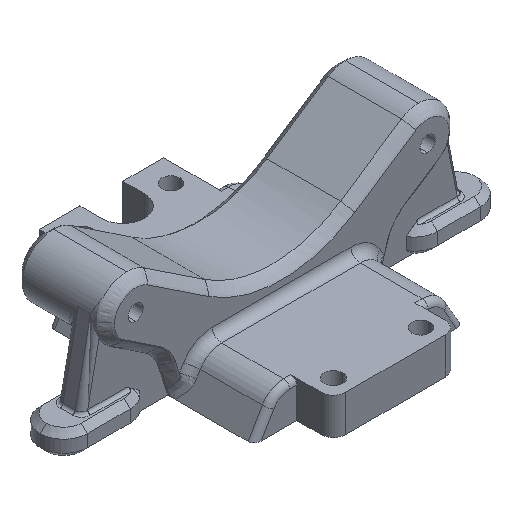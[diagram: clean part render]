
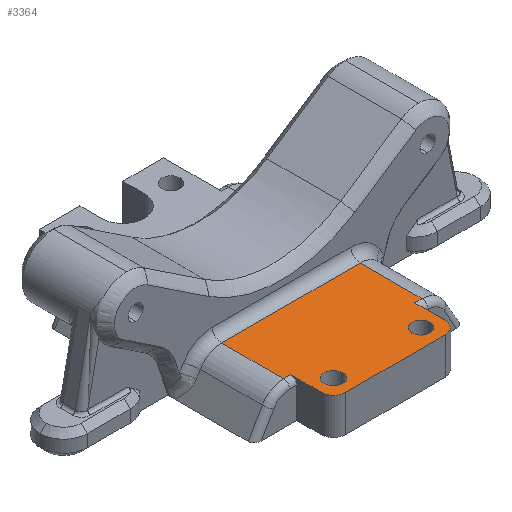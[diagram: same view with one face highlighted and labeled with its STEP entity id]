
A CAD part, isometric view. The second image highlights one B-rep face of the part: STEP entity #3364.
In plain terms, the highlighted planar face has unit normal (0, 0, 1).
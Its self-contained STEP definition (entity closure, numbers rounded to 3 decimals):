
#79 = CARTESIAN_POINT ( 'NONE',  ( -7.15, -19.8, 6. ) ) ;
#131 = AXIS2_PLACEMENT_3D ( 'NONE', #5465, #442, #4404 ) ;
#256 = ORIENTED_EDGE ( 'NONE', *, *, #1631, .T. ) ;
#257 = ORIENTED_EDGE ( 'NONE', *, *, #3929, .T. ) ;
#310 = CARTESIAN_POINT ( 'NONE',  ( -11.32, -5.7, 6. ) ) ;
#350 = DIRECTION ( 'NONE',  ( 0., -1., 0. ) ) ;
#363 = CARTESIAN_POINT ( 'NONE',  ( 10.15, -20.8, 6. ) ) ;
#381 = VERTEX_POINT ( 'NONE', #4970 ) ;
#387 = LINE ( 'NONE', #2830, #1526 ) ;
#442 = DIRECTION ( 'NONE',  ( 0., 0., 1. ) ) ;
#520 = CARTESIAN_POINT ( 'NONE',  ( 11.32, -4.2, 6. ) ) ;
#540 = DIRECTION ( 'NONE',  ( 0., 0., 1. ) ) ;
#575 = LINE ( 'NONE', #3906, #2012 ) ;
#623 = DIRECTION ( 'NONE',  ( 0., 0., 1. ) ) ;
#710 = VERTEX_POINT ( 'NONE', #363 ) ;
#838 = CARTESIAN_POINT ( 'NONE',  ( -11.32, -15.8, 6. ) ) ;
#866 = CIRCLE ( 'NONE', #2330, 1.5 ) ;
#887 = CARTESIAN_POINT ( 'NONE',  ( -8.15, -22.8, 6. ) ) ;
#921 = ORIENTED_EDGE ( 'NONE', *, *, #5756, .T. ) ;
#964 = FACE_BOUND ( 'NONE', #2840, .T. ) ;
#996 = EDGE_CURVE ( 'NONE', #3649, #381, #866, .T. ) ;
#1062 = VECTOR ( 'NONE', #1790, 1000. ) ;
#1164 = AXIS2_PLACEMENT_3D ( 'NONE', #79, #623, #5855 ) ;
#1190 = LINE ( 'NONE', #3455, #6134 ) ;
#1202 = EDGE_CURVE ( 'NONE', #381, #3649, #5025, .T. ) ;
#1268 = EDGE_CURVE ( 'NONE', #6217, #6387, #1610, .T. ) ;
#1371 = ORIENTED_EDGE ( 'NONE', *, *, #2204, .T. ) ;
#1437 = DIRECTION ( 'NONE',  ( 1., 0., 0. ) ) ;
#1461 = ORIENTED_EDGE ( 'NONE', *, *, #5269, .T. ) ;
#1478 = CARTESIAN_POINT ( 'NONE',  ( 7.15, -19.8, 6. ) ) ;
#1526 = VECTOR ( 'NONE', #1849, 1000. ) ;
#1528 = CARTESIAN_POINT ( 'NONE',  ( -10.15, -15.8, 6. ) ) ;
#1562 = CARTESIAN_POINT ( 'NONE',  ( 7.15, -19.8, 6. ) ) ;
#1610 = CIRCLE ( 'NONE', #1164, 1.5 ) ;
#1631 = EDGE_CURVE ( 'NONE', #4859, #710, #5663, .T. ) ;
#1653 = DIRECTION ( 'NONE',  ( 0., 0., 1. ) ) ;
#1717 = FACE_OUTER_BOUND ( 'NONE', #2175, .T. ) ;
#1729 = ORIENTED_EDGE ( 'NONE', *, *, #1202, .F. ) ;
#1770 = LINE ( 'NONE', #4303, #5489 ) ;
#1790 = DIRECTION ( 'NONE',  ( -1., 0., 0. ) ) ;
#1849 = DIRECTION ( 'NONE',  ( 1., 0., 0. ) ) ;
#1875 = DIRECTION ( 'NONE',  ( 0., 0., 1. ) ) ;
#1893 = CARTESIAN_POINT ( 'NONE',  ( -8.65, -19.8, 6. ) ) ;
#2012 = VECTOR ( 'NONE', #3822, 1000. ) ;
#2046 = DIRECTION ( 'NONE',  ( 0., 1., 0. ) ) ;
#2159 = EDGE_CURVE ( 'NONE', #710, #4217, #575, .T. ) ;
#2175 = EDGE_LOOP ( 'NONE', ( #1461, #257, #1371, #5366, #4912, #921, #5607, #256, #4022, #4154 ) ) ;
#2192 = LINE ( 'NONE', #310, #1062 ) ;
#2204 = EDGE_CURVE ( 'NONE', #4636, #5112, #1190, .T. ) ;
#2237 = VECTOR ( 'NONE', #1437, 1000. ) ;
#2330 = AXIS2_PLACEMENT_3D ( 'NONE', #1562, #1653, #4605 ) ;
#2332 = DIRECTION ( 'NONE',  ( 0., 0., 1. ) ) ;
#2369 = VERTEX_POINT ( 'NONE', #2607 ) ;
#2449 = DIRECTION ( 'NONE',  ( 0., -1., 0. ) ) ;
#2580 = LINE ( 'NONE', #4257, #6372 ) ;
#2607 = CARTESIAN_POINT ( 'NONE',  ( -10.15, -20.8, 6. ) ) ;
#2658 = EDGE_CURVE ( 'NONE', #5112, #5431, #2930, .T. ) ;
#2830 = CARTESIAN_POINT ( 'NONE',  ( -10.15, -22.8, 6. ) ) ;
#2840 = EDGE_LOOP ( 'NONE', ( #5768, #1729 ) ) ;
#2858 = DIRECTION ( 'NONE',  ( 1., 0., 0. ) ) ;
#2930 = LINE ( 'NONE', #4411, #2237 ) ;
#3160 = DIRECTION ( 'NONE',  ( 0., 0., 1. ) ) ;
#3190 = EDGE_LOOP ( 'NONE', ( #4150, #4879 ) ) ;
#3334 = CARTESIAN_POINT ( 'NONE',  ( -11.32, -5.7, 6. ) ) ;
#3364 = ADVANCED_FACE ( 'NONE', ( #4350, #964, #1717 ), #6093, .T. ) ;
#3455 = CARTESIAN_POINT ( 'NONE',  ( -11.32, -16.8, 6. ) ) ;
#3581 = VERTEX_POINT ( 'NONE', #887 ) ;
#3649 = VERTEX_POINT ( 'NONE', #6329 ) ;
#3665 = DIRECTION ( 'NONE',  ( 1., 0., 0. ) ) ;
#3697 = CARTESIAN_POINT ( 'NONE',  ( 0., 21.75, 6. ) ) ;
#3711 = CIRCLE ( 'NONE', #4727, 2. ) ;
#3770 = AXIS2_PLACEMENT_3D ( 'NONE', #5353, #2332, #3818 ) ;
#3815 = CARTESIAN_POINT ( 'NONE',  ( -8.15, -20.8, 6. ) ) ;
#3818 = DIRECTION ( 'NONE',  ( 1., 0., 0. ) ) ;
#3822 = DIRECTION ( 'NONE',  ( 0., 1., 0. ) ) ;
#3839 = AXIS2_PLACEMENT_3D ( 'NONE', #3697, #3160, #3665 ) ;
#3906 = CARTESIAN_POINT ( 'NONE',  ( 10.15, -22.8, 6. ) ) ;
#3929 = EDGE_CURVE ( 'NONE', #6383, #4636, #2192, .T. ) ;
#3947 = EDGE_CURVE ( 'NONE', #5431, #2369, #2580, .T. ) ;
#4022 = ORIENTED_EDGE ( 'NONE', *, *, #2159, .T. ) ;
#4051 = DIRECTION ( 'NONE',  ( 1., 0., 0. ) ) ;
#4150 = ORIENTED_EDGE ( 'NONE', *, *, #1268, .F. ) ;
#4154 = ORIENTED_EDGE ( 'NONE', *, *, #6306, .T. ) ;
#4217 = VERTEX_POINT ( 'NONE', #5577 ) ;
#4257 = CARTESIAN_POINT ( 'NONE',  ( -10.15, -16.8, 6. ) ) ;
#4303 = CARTESIAN_POINT ( 'NONE',  ( 11.32, -15.8, 6. ) ) ;
#4350 = FACE_BOUND ( 'NONE', #3190, .T. ) ;
#4404 = DIRECTION ( 'NONE',  ( 1., 0., 0. ) ) ;
#4411 = CARTESIAN_POINT ( 'NONE',  ( -10.15, -15.8, 6. ) ) ;
#4437 = CARTESIAN_POINT ( 'NONE',  ( 11.32, -5.7, 6. ) ) ;
#4456 = VECTOR ( 'NONE', #2046, 1000. ) ;
#4590 = EDGE_CURVE ( 'NONE', #6387, #6217, #6289, .T. ) ;
#4605 = DIRECTION ( 'NONE',  ( 1., 0., 0. ) ) ;
#4636 = VERTEX_POINT ( 'NONE', #3334 ) ;
#4727 = AXIS2_PLACEMENT_3D ( 'NONE', #3815, #1875, #5267 ) ;
#4859 = VERTEX_POINT ( 'NONE', #6019 ) ;
#4879 = ORIENTED_EDGE ( 'NONE', *, *, #4590, .F. ) ;
#4905 = AXIS2_PLACEMENT_3D ( 'NONE', #1478, #540, #4051 ) ;
#4912 = ORIENTED_EDGE ( 'NONE', *, *, #3947, .T. ) ;
#4970 = CARTESIAN_POINT ( 'NONE',  ( 5.65, -19.8, 6. ) ) ;
#5025 = CIRCLE ( 'NONE', #4905, 1.5 ) ;
#5112 = VERTEX_POINT ( 'NONE', #838 ) ;
#5267 = DIRECTION ( 'NONE',  ( 1., 0., 0. ) ) ;
#5269 = EDGE_CURVE ( 'NONE', #5701, #6383, #6088, .T. ) ;
#5353 = CARTESIAN_POINT ( 'NONE',  ( -7.15, -19.8, 6. ) ) ;
#5366 = ORIENTED_EDGE ( 'NONE', *, *, #2658, .T. ) ;
#5431 = VERTEX_POINT ( 'NONE', #1528 ) ;
#5465 = CARTESIAN_POINT ( 'NONE',  ( 8.15, -20.8, 6. ) ) ;
#5489 = VECTOR ( 'NONE', #2858, 1000. ) ;
#5577 = CARTESIAN_POINT ( 'NONE',  ( 10.15, -15.8, 6. ) ) ;
#5607 = ORIENTED_EDGE ( 'NONE', *, *, #6240, .T. ) ;
#5652 = CARTESIAN_POINT ( 'NONE',  ( 11.32, -15.8, 6. ) ) ;
#5663 = CIRCLE ( 'NONE', #131, 2. ) ;
#5701 = VERTEX_POINT ( 'NONE', #5652 ) ;
#5756 = EDGE_CURVE ( 'NONE', #2369, #3581, #3711, .T. ) ;
#5768 = ORIENTED_EDGE ( 'NONE', *, *, #996, .F. ) ;
#5855 = DIRECTION ( 'NONE',  ( 1., 0., 0. ) ) ;
#6019 = CARTESIAN_POINT ( 'NONE',  ( 8.15, -22.8, 6. ) ) ;
#6088 = LINE ( 'NONE', #520, #4456 ) ;
#6093 = PLANE ( 'NONE',  #3839 ) ;
#6134 = VECTOR ( 'NONE', #2449, 1000. ) ;
#6217 = VERTEX_POINT ( 'NONE', #6263 ) ;
#6240 = EDGE_CURVE ( 'NONE', #3581, #4859, #387, .T. ) ;
#6263 = CARTESIAN_POINT ( 'NONE',  ( -5.65, -19.8, 6. ) ) ;
#6289 = CIRCLE ( 'NONE', #3770, 1.5 ) ;
#6306 = EDGE_CURVE ( 'NONE', #4217, #5701, #1770, .T. ) ;
#6329 = CARTESIAN_POINT ( 'NONE',  ( 8.65, -19.8, 6. ) ) ;
#6372 = VECTOR ( 'NONE', #350, 1000. ) ;
#6383 = VERTEX_POINT ( 'NONE', #4437 ) ;
#6387 = VERTEX_POINT ( 'NONE', #1893 ) ;
